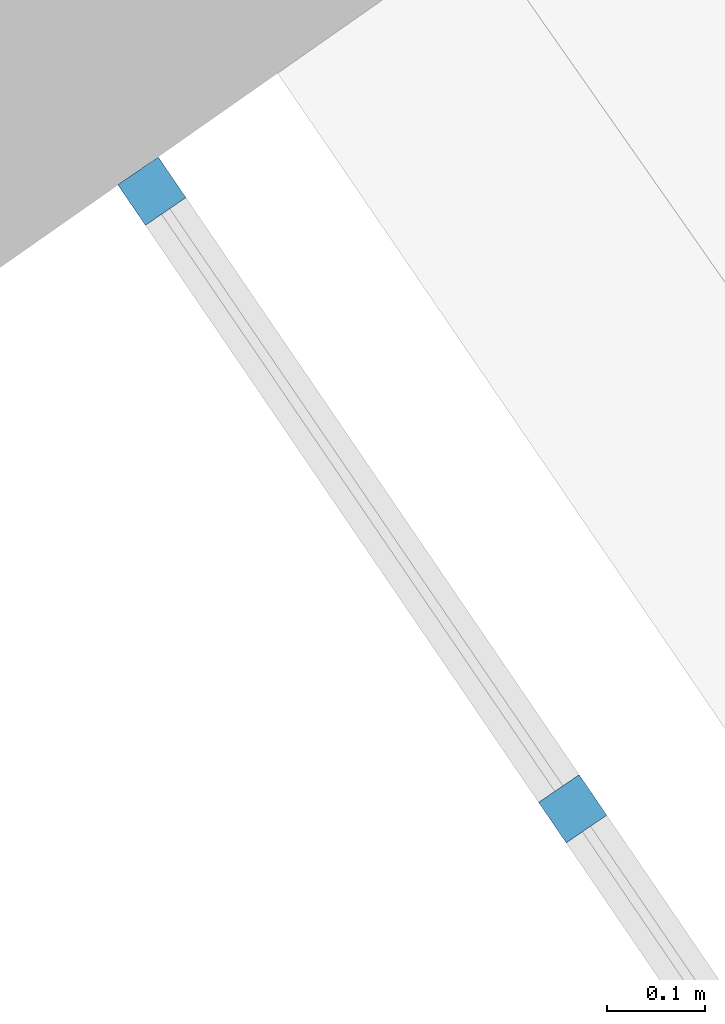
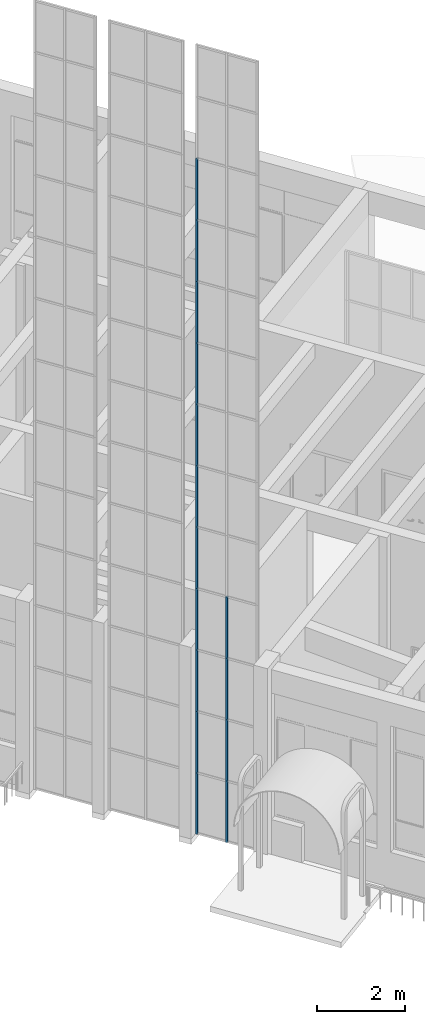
# One storey, part 7 of 157: 15 members, 1 element without a shape of its own.
"""IFC2X3 building model written with IfcOpenShell, lengths in millimetres."""

from ifc_helpers import new_model, entity, si_unit, converted_unit, derived_unit, direction, frame, origin, origin_2d_with_axis, place, context, subcontext, project, spatial, rectangle, extrude, source, transform, mapped, material, type_object, type_shapes, element, aggregate, save


model = new_model("IFC2X3")

# Units and contexts
model_context = context("Model", 3, precision=0.01, world=origin(), true_north=direction((6.123031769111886e-17, 1.0)))
body_context = subcontext(model_context, "Body", "Model", "MODEL_VIEW")
ifc_project = project(units=[si_unit("LENGTHUNIT", "METRE", prefix="MILLI"), si_unit("AREAUNIT", "SQUARE_METRE"), si_unit("VOLUMEUNIT", "CUBIC_METRE"), converted_unit("PLANEANGLEUNIT", "DEGREE", entity("IfcRatioMeasure", 0.017453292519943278), si_unit("PLANEANGLEUNIT", "RADIAN"), dimensions=[0, 0, 0, 0, 0, 0, 0]), si_unit("MASSUNIT", "GRAM", prefix="KILO"), derived_unit("MASSDENSITYUNIT", [(si_unit("MASSUNIT", "GRAM", prefix="KILO"), 1), (si_unit("LENGTHUNIT", "METRE"), -3)]), derived_unit("MOMENTOFINERTIAUNIT", [(si_unit("LENGTHUNIT", "METRE"), 4)]), si_unit("TIMEUNIT", "SECOND"), si_unit("FREQUENCYUNIT", "HERTZ"), si_unit("THERMODYNAMICTEMPERATUREUNIT", "DEGREE_CELSIUS"), derived_unit("THERMALTRANSMITTANCEUNIT", [(si_unit("MASSUNIT", "GRAM", prefix="KILO"), 1), (si_unit("THERMODYNAMICTEMPERATUREUNIT", "KELVIN"), -1), (si_unit("TIMEUNIT", "SECOND"), -3)]), derived_unit("THERMALCONDUCTANCEUNIT", [(si_unit("MASSUNIT", "GRAM", prefix="KILO"), 1), (si_unit("LENGTHUNIT", "METRE"), 1), (si_unit("THERMODYNAMICTEMPERATUREUNIT", "KELVIN"), -1), (si_unit("TIMEUNIT", "SECOND"), -3)]), derived_unit("VOLUMETRICFLOWRATEUNIT", [(si_unit("LENGTHUNIT", "METRE"), 3), (si_unit("TIMEUNIT", "SECOND"), -1)]), derived_unit("MASSFLOWRATEUNIT", [(si_unit("MASSUNIT", "GRAM", prefix="KILO"), 1), (si_unit("TIMEUNIT", "SECOND"), -1)]), derived_unit("ROTATIONALFREQUENCYUNIT", [(si_unit("TIMEUNIT", "SECOND"), -1)]), si_unit("ELECTRICCURRENTUNIT", "AMPERE"), si_unit("ELECTRICVOLTAGEUNIT", "VOLT"), si_unit("POWERUNIT", "WATT"), converted_unit("FORCEUNIT", "KIP", entity("IfcRatioMeasure", 2.088543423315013e-05), si_unit("FORCEUNIT", "NEWTON"), dimensions=[1, 1, -2, 0, 0, 0, 0]), si_unit("ILLUMINANCEUNIT", "LUX"), si_unit("LUMINOUSFLUXUNIT", "LUMEN"), si_unit("LUMINOUSINTENSITYUNIT", "CANDELA"), derived_unit("USERDEFINED", [(si_unit("MASSUNIT", "GRAM", prefix="KILO"), -1), (si_unit("LENGTHUNIT", "METRE"), -2), (si_unit("TIMEUNIT", "SECOND"), 3), (si_unit("LUMINOUSFLUXUNIT", "LUMEN"), 1)]), derived_unit("USERDEFINED", [(si_unit("MASSUNIT", "GRAM", prefix="KILO"), 1), (si_unit("LENGTHUNIT", "METRE"), 3), (si_unit("TIMEUNIT", "SECOND"), -3), (si_unit("ELECTRICCURRENTUNIT", "AMPERE"), -2)]), derived_unit("USERDEFINED", [(si_unit("LENGTHUNIT", "METRE"), 2), (si_unit("TIMEUNIT", "SECOND"), -2)]), derived_unit("SOUNDPOWERUNIT", [(si_unit("MASSUNIT", "GRAM", prefix="KILO"), 1), (si_unit("LENGTHUNIT", "METRE"), 2), (si_unit("TIMEUNIT", "SECOND"), -3)]), derived_unit("SOUNDPRESSUREUNIT", [(si_unit("MASSUNIT", "GRAM", prefix="KILO"), 1), (si_unit("LENGTHUNIT", "METRE"), -1), (si_unit("TIMEUNIT", "SECOND"), -2)]), derived_unit("LINEARVELOCITYUNIT", [(si_unit("LENGTHUNIT", "METRE"), 1), (si_unit("TIMEUNIT", "SECOND"), -1)]), si_unit("PRESSUREUNIT", "PASCAL"), derived_unit("USERDEFINED", [(si_unit("LENGTHUNIT", "METRE"), -2), (si_unit("MASSUNIT", "GRAM", prefix="KILO"), 1), (si_unit("TIMEUNIT", "SECOND"), -2)]), derived_unit("LINEARFORCEUNIT", [(si_unit("MASSUNIT", "GRAM", prefix="KILO"), 1), (si_unit("LENGTHUNIT", "METRE"), 1), (si_unit("TIMEUNIT", "SECOND"), -2), (si_unit("LENGTHUNIT", "METRE"), -1)]), derived_unit("PLANARFORCEUNIT", [(si_unit("MASSUNIT", "GRAM", prefix="KILO"), 1), (si_unit("LENGTHUNIT", "METRE"), 1), (si_unit("TIMEUNIT", "SECOND"), -2), (si_unit("LENGTHUNIT", "METRE"), -2)]), derived_unit("SPECIFICHEATCAPACITYUNIT", [(si_unit("LENGTHUNIT", "METRE"), 2), (si_unit("TIMEUNIT", "SECOND"), -2), (si_unit("THERMODYNAMICTEMPERATUREUNIT", "KELVIN"), -1)]), derived_unit("VAPORPERMEABILITYUNIT", [(si_unit("TIMEUNIT", "SECOND"), 1), (si_unit("LENGTHUNIT", "METRE"), -1)]), derived_unit("DYNAMICVISCOSITYUNIT", [(si_unit("MASSUNIT", "GRAM", prefix="KILO"), 1), (si_unit("LENGTHUNIT", "METRE"), -1), (si_unit("TIMEUNIT", "SECOND"), -1)]), derived_unit("THERMALEXPANSIONCOEFFICIENTUNIT", [(si_unit("THERMODYNAMICTEMPERATUREUNIT", "KELVIN"), -1)])], contexts=[model_context])

# Site, building, storey
site_placement = place(None, frame((0.0, 0.0, 0.0), z_axis=(0.0, 0.0, 1.0), x_axis=(0.8191520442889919, 0.5735764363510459, 0.0)))
site = spatial("IfcSite", under=ifc_project, at=site_placement, Name="Default", CompositionType="ELEMENT")
building_placement = place(site_placement, origin())
building = spatial("IfcBuilding", under=site, at=building_placement, CompositionType="ELEMENT")
storey_placement = place(building_placement, origin())
storey = spatial("IfcBuildingStorey", under=building, at=storey_placement, Name="1.EG +0.00", CompositionType="ELEMENT", Elevation=-4.331468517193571e-12)

# Curtain wall, members
curtain_wall_type = type_object("IfcCurtainWallType", Name="Curtain Wall:Curtain_Wall_CJC", PredefinedType="NOTDEFINED")
curtain_wall_placement = place(storey_placement, origin())
curtain_wall = element("IfcCurtainWall", 1, at=curtain_wall_placement, inside=storey, type_object=curtain_wall_type, Name="Curtain Wall:Curtain_Wall_CJC", ObjectType="Curtain Wall:Curtain_Wall_CJC")
ifc_material = material(Name="Aluminium")
member_type_1 = type_object("IfcMemberType", Name="Rectangular Mullion:5x5", PredefinedType="MULLION", material=ifc_material)
shared_shape_1 = source(origin(), body_context, "Body", "SweptSolid", [
    extrude(rectangle(XDim=50.0, YDim=50.0, at=origin_2d_with_axis()), frame((-25.0, 0.0, -1700.0), z_axis=(0.0, 0.0, 1.0), x_axis=(0.0, -1.0, 0.0)), (0.0, 0.0, 1.0), 1700.0),
])
type_shapes(member_type_1, [shared_shape_1])
member_1_placement = place(curtain_wall_placement, frame((-223102.4117022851, 111445.23194626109, 3400.0), z_axis=(0.0, 0.0, -1.0), x_axis=(0.01272958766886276, 0.999918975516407, 0.0)))
member_1 = element("IfcMember", 2, at=member_1_placement, type_object=member_type_1, material=ifc_material, Name="Rectangular Mullion:5x5", ObjectType="Rectangular Mullion:5x5", context=body_context, shape_type="MappedRepresentation", body=[
    mapped(shared_shape_1, transform((0.0, 0.0, 0.0), scale=1.0)),
])
member_2_placement = place(curtain_wall_placement, frame((-223102.4117022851, 111445.23194626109, 1700.0), z_axis=(0.0, 0.0, -1.0), x_axis=(0.01272958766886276, 0.999918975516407, 0.0)))
member_2 = element("IfcMember", 3, at=member_2_placement, type_object=member_type_1, material=ifc_material, Name="Rectangular Mullion:5x5", ObjectType="Rectangular Mullion:5x5", context=body_context, shape_type="MappedRepresentation", body=[
    mapped(shared_shape_1, transform((0.0, 0.0, 0.0), scale=1.0)),
])
member_3_placement = place(curtain_wall_placement, frame((-223102.4117022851, 111445.23194626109, 5100.0), z_axis=(0.0, 0.0, -1.0), x_axis=(0.01272958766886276, 0.999918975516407, 0.0)))
member_3 = element("IfcMember", 4, at=member_3_placement, type_object=member_type_1, material=ifc_material, Name="Rectangular Mullion:5x5", ObjectType="Rectangular Mullion:5x5", context=body_context, shape_type="MappedRepresentation", body=[
    mapped(shared_shape_1, transform((0.0, 0.0, 0.0), scale=1.0)),
])
member_4_placement = place(curtain_wall_placement, frame((-223102.4117022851, 111445.23194626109, 6800.0), z_axis=(0.0, 0.0, -1.0), x_axis=(0.01272958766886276, 0.999918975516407, 0.0)))
member_4 = element("IfcMember", 5, at=member_4_placement, type_object=member_type_1, material=ifc_material, Name="Rectangular Mullion:5x5", ObjectType="Rectangular Mullion:5x5", context=body_context, shape_type="MappedRepresentation", body=[
    mapped(shared_shape_1, transform((0.0, 0.0, 0.0), scale=1.0)),
])
member_5_placement = place(curtain_wall_placement, frame((-223102.4117022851, 111445.23194626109, 8500.0), z_axis=(0.0, 0.0, -1.0), x_axis=(0.01272958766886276, 0.999918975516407, 0.0)))
member_5 = element("IfcMember", 6, at=member_5_placement, type_object=member_type_1, material=ifc_material, Name="Rectangular Mullion:5x5", ObjectType="Rectangular Mullion:5x5", context=body_context, shape_type="MappedRepresentation", body=[
    mapped(shared_shape_1, transform((0.0, 0.0, 0.0), scale=1.0)),
])
member_6_placement = place(curtain_wall_placement, frame((-223102.4117022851, 111445.23194626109, 10200.0), z_axis=(0.0, 0.0, -1.0), x_axis=(0.01272958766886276, 0.999918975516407, 0.0)))
member_6 = element("IfcMember", 7, at=member_6_placement, type_object=member_type_1, material=ifc_material, Name="Rectangular Mullion:5x5", ObjectType="Rectangular Mullion:5x5", context=body_context, shape_type="MappedRepresentation", body=[
    mapped(shared_shape_1, transform((0.0, 0.0, 0.0), scale=1.0)),
])
member_7_placement = place(curtain_wall_placement, frame((-223102.4117022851, 111445.23194626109, 11900.0), z_axis=(0.0, 0.0, -1.0), x_axis=(0.01272958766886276, 0.999918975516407, 0.0)))
member_7 = element("IfcMember", 8, at=member_7_placement, type_object=member_type_1, material=ifc_material, Name="Rectangular Mullion:5x5", ObjectType="Rectangular Mullion:5x5", context=body_context, shape_type="MappedRepresentation", body=[
    mapped(shared_shape_1, transform((0.0, 0.0, 0.0), scale=1.0)),
])
member_8_placement = place(curtain_wall_placement, frame((-223102.4117022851, 111445.23194626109, 13600.0), z_axis=(0.0, 0.0, -1.0), x_axis=(0.01272958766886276, 0.999918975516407, 0.0)))
member_8 = element("IfcMember", 9, at=member_8_placement, type_object=member_type_1, material=ifc_material, Name="Rectangular Mullion:5x5", ObjectType="Rectangular Mullion:5x5", context=body_context, shape_type="MappedRepresentation", body=[
    mapped(shared_shape_1, transform((0.0, 0.0, 0.0), scale=1.0)),
])
member_9_placement = place(curtain_wall_placement, frame((-223102.4117022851, 111445.23194626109, 15300.0), z_axis=(0.0, 0.0, -1.0), x_axis=(0.01272958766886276, 0.999918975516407, 0.0)))
member_9 = element("IfcMember", 10, at=member_9_placement, type_object=member_type_1, material=ifc_material, Name="Rectangular Mullion:5x5", ObjectType="Rectangular Mullion:5x5", context=body_context, shape_type="MappedRepresentation", body=[
    mapped(shared_shape_1, transform((0.0, 0.0, 0.0), scale=1.0)),
])
member_10_placement = place(curtain_wall_placement, frame((-223102.4117022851, 111445.23194626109, 17000.0), z_axis=(0.0, 0.0, -1.0), x_axis=(0.01272958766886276, 0.999918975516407, 0.0)))
member_10 = element("IfcMember", 11, at=member_10_placement, type_object=member_type_1, material=ifc_material, Name="Rectangular Mullion:5x5", ObjectType="Rectangular Mullion:5x5", context=body_context, shape_type="MappedRepresentation", body=[
    mapped(shared_shape_1, transform((0.0, 0.0, 0.0), scale=1.0)),
])
member_type_2 = type_object("IfcMemberType", Name="Rectangular Mullion:5x5", PredefinedType="MULLION", material=ifc_material)
shared_shape_2 = source(origin(), body_context, "Body", "SweptSolid", [
    extrude(rectangle(XDim=50.0, YDim=50.0, at=origin_2d_with_axis()), frame((-25.0, 0.0, -1700.0), z_axis=(0.0, 0.0, 1.0), x_axis=(0.0, -1.0, 0.0)), (0.0, 0.0, 1.0), 1700.0),
])
type_shapes(member_type_2, [shared_shape_2])
member_11_placement = place(curtain_wall_placement, frame((-223102.4117022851, 111445.23194626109, 0.0), z_axis=(0.0, 0.0, -1.0), x_axis=(0.01272958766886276, 0.999918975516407, 0.0)))
member_11 = element("IfcMember", 12, at=member_11_placement, type_object=member_type_2, material=ifc_material, Name="Rectangular Mullion:5x5", ObjectType="Rectangular Mullion:5x5", context=body_context, shape_type="MappedRepresentation", body=[
    mapped(shared_shape_2, transform((0.0, 0.0, 0.0), scale=1.0)),
])
member_type_3 = type_object("IfcMemberType", Name="Rectangular Mullion:5x5", PredefinedType="MULLION", material=ifc_material)
shared_shape_3 = source(origin(), body_context, "Body", "SweptSolid", [
    extrude(rectangle(XDim=50.0, YDim=50.0, at=origin_2d_with_axis()), frame((0.0, 0.0, -1700.0), z_axis=(0.0, 0.0, 1.0), x_axis=(0.0, -1.0, 0.0)), (0.0, 0.0, 1.0), 1700.0),
])
type_shapes(member_type_3, [shared_shape_3])
member_12_placement = place(curtain_wall_placement, frame((-223112.42989137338, 110658.29543030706, 0.0), z_axis=(0.0, 0.0, -1.0), x_axis=(0.01272958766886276, 0.999918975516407, 0.0)))
member_12 = element("IfcMember", 13, at=member_12_placement, type_object=member_type_3, material=ifc_material, Name="Rectangular Mullion:5x5", ObjectType="Rectangular Mullion:5x5", context=body_context, shape_type="MappedRepresentation", body=[
    mapped(shared_shape_3, transform((0.0, 0.0, 0.0), scale=1.0)),
])
member_type_4 = type_object("IfcMemberType", Name="Rectangular Mullion:5x5", PredefinedType="MULLION", material=ifc_material)
shared_shape_4 = source(origin(), body_context, "Body", "SweptSolid", [
    extrude(rectangle(XDim=50.0, YDim=50.0, at=origin_2d_with_axis()), frame((0.0, 0.0, -1700.0), z_axis=(0.0, 0.0, 1.0), x_axis=(0.0, -1.0, 0.0)), (0.0, 0.0, 1.0), 1700.0),
])
type_shapes(member_type_4, [shared_shape_4])
member_13_placement = place(curtain_wall_placement, frame((-223112.42989137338, 110658.29543030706, 1700.0), z_axis=(0.0, 0.0, -1.0), x_axis=(0.01272958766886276, 0.999918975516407, 0.0)))
member_13 = element("IfcMember", 14, at=member_13_placement, type_object=member_type_4, material=ifc_material, Name="Rectangular Mullion:5x5", ObjectType="Rectangular Mullion:5x5", context=body_context, shape_type="MappedRepresentation", body=[
    mapped(shared_shape_4, transform((0.0, 0.0, 0.0), scale=1.0)),
])
member_14_placement = place(curtain_wall_placement, frame((-223112.42989137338, 110658.29543030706, 3400.0), z_axis=(0.0, 0.0, -1.0), x_axis=(0.01272958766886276, 0.999918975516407, 0.0)))
member_14 = element("IfcMember", 15, at=member_14_placement, type_object=member_type_4, material=ifc_material, Name="Rectangular Mullion:5x5", ObjectType="Rectangular Mullion:5x5", context=body_context, shape_type="MappedRepresentation", body=[
    mapped(shared_shape_4, transform((0.0, 0.0, 0.0), scale=1.0)),
])
member_15_placement = place(curtain_wall_placement, frame((-223112.42989137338, 110658.29543030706, 5100.0), z_axis=(0.0, 0.0, -1.0), x_axis=(0.01272958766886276, 0.999918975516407, 0.0)))
member_15 = element("IfcMember", 16, at=member_15_placement, type_object=member_type_4, material=ifc_material, Name="Rectangular Mullion:5x5", ObjectType="Rectangular Mullion:5x5", context=body_context, shape_type="MappedRepresentation", body=[
    mapped(shared_shape_4, transform((0.0, 0.0, 0.0), scale=1.0)),
])
aggregate(curtain_wall, [member_1, member_2, member_11, member_12, member_13, member_14, member_3, member_15, member_4, member_5, member_6, member_7, member_8, member_9, member_10])

save(model, "model.ifc")
